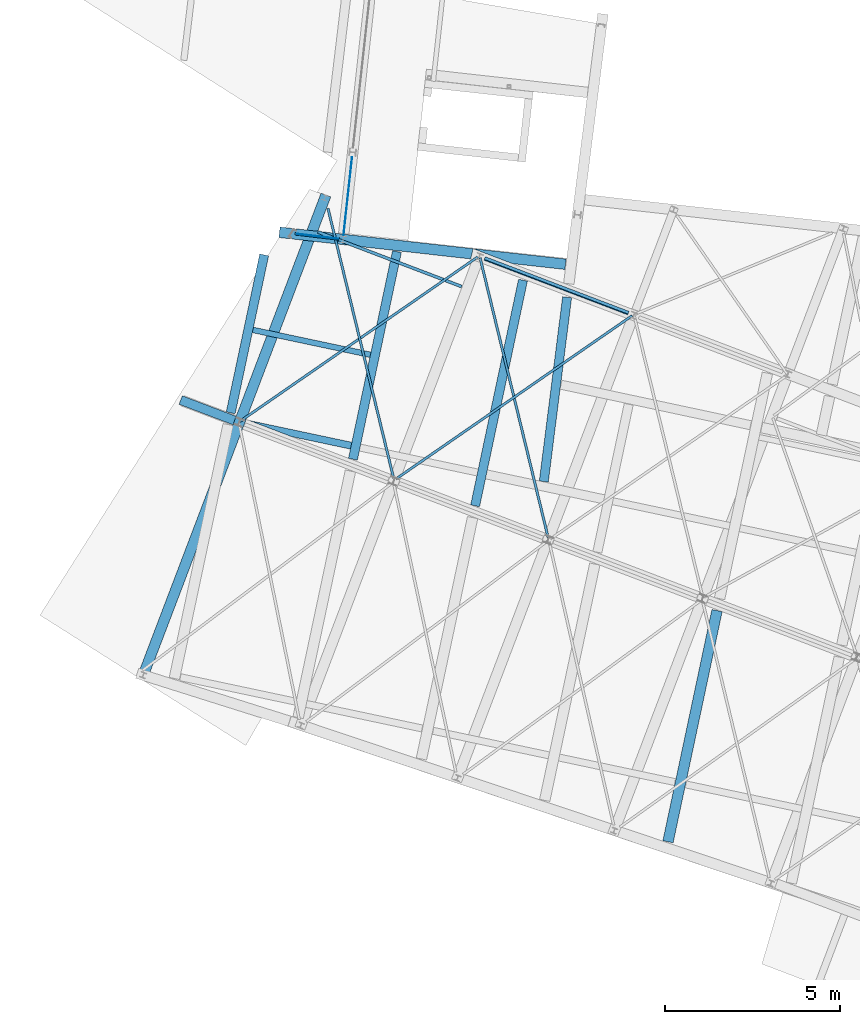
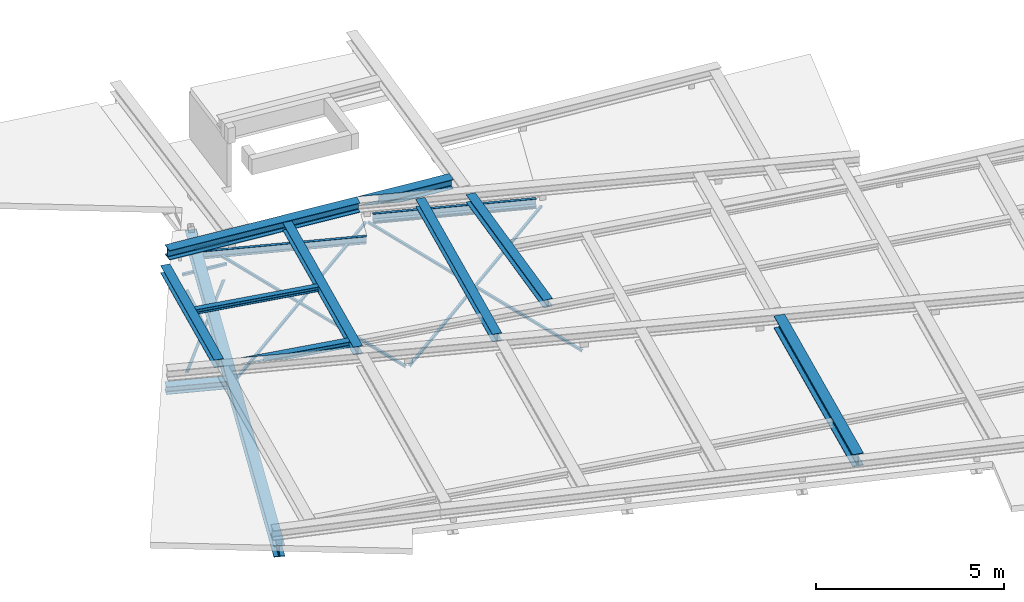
# One storey, part 11 of 21: 22 beams.
"""IFC2X3 building model written with IfcOpenShell, lengths in millimetres."""

import ifcopenshell
import ifcopenshell.guid

model = None  # the IFC model being written
_history = None  # IfcOwnerHistory: only IFC2X3 demands one
_inside = {}  # id of a spatial element -> (the spatial element, [elements in it])
_under = {}  # id of a project, library or spatial element -> (it, [spatial elements below it])
_declared = {}  # id of a project -> (the project, [libraries it declares])
_typed = {}  # id of a type object -> (the type object, [elements of that type])
_made_of = {}  # id of a material, layer set ... -> (it, [elements and type objects made of it])


def new_model(schema):
    """Start an empty IFC model of exactly this schema.

    Asked for "IFC4X3", IfcOpenShell would pick the latest addendum, in which some entities
    have other attributes; the version numbers below select the first issue.
    IFC2X3 requires an IfcOwnerHistory on every rooted entity: one is made here for all.
    """
    global model, _history
    if schema == "IFC4X3":
        model = ifcopenshell.file(schema_version=(4, 3, 0, 0))
    else:
        model = ifcopenshell.file(schema=schema)
    _inside.clear()
    _under.clear()
    _declared.clear()
    _typed.clear()
    _made_of.clear()
    _history = None
    if model.schema == "IFC2X3":
        org = make("IfcOrganization", Name="unknown")
        user = make(
            "IfcPersonAndOrganization",
            ThePerson=make("IfcPerson", FamilyName="unknown"),
            TheOrganization=org,
        )
        app = make(
            "IfcApplication",
            ApplicationDeveloper=org,
            Version="unknown",
            ApplicationFullName="unknown",
            ApplicationIdentifier="unknown",
        )
        _history = make(
            "IfcOwnerHistory",
            OwningUser=user,
            OwningApplication=app,
            ChangeAction="ADDED",
            CreationDate=0,
        )
    return model


def make(cls, **values):
    """One entity of the class cls with the attributes given. An attribute that is None is left unset."""
    return model.create_entity(
        cls, **{name: value for name, value in values.items() if value is not None}
    )


def entity(cls, *values):
    """Any entity or typed value of the class cls, its attributes in the order of the schema. None: left unset."""
    e = model.create_entity(cls)
    for i, value in enumerate(values):
        if value is not None:
            e[i] = value
    return e


def rooted(cls, **values):
    """An entity with a GlobalId (a new one), such as an element, a storey or a relation."""
    return make(cls, GlobalId=ifcopenshell.guid.new(), OwnerHistory=_history, **values)


def si_unit(unit_type, name, prefix=None):
    """IfcSIUnit, for example si_unit("LENGTHUNIT", "METRE", prefix="MILLI")."""
    return make("IfcSIUnit", UnitType=unit_type, Prefix=prefix, Name=name)


def converted_unit(unit_type, name, factor, base, dimensions=None, offset=None):
    """IfcConversionBasedUnit, such as the inch: factor (a typed value) times the base unit."""
    return make(
        "IfcConversionBasedUnit"
        if offset is None
        else "IfcConversionBasedUnitWithOffset",
        ConversionOffset=offset,
        Dimensions=None
        if dimensions is None
        else entity("IfcDimensionalExponents", *dimensions),
        UnitType=unit_type,
        Name=name,
        ConversionFactor=make(
            "IfcMeasureWithUnit", ValueComponent=factor, UnitComponent=base
        ),
    )


def derived_unit(unit_type, elements):
    """IfcDerivedUnit: a product of units, each with its exponent."""
    return make(
        "IfcDerivedUnit",
        Elements=[
            make("IfcDerivedUnitElement", Unit=unit, Exponent=power)
            for unit, power in elements
        ],
        UnitType=unit_type,
    )


def assignment(units):
    """IfcUnitAssignment: the units of a project."""
    return None if units is None else make("IfcUnitAssignment", Units=units)


def point(xyz):
    """IfcCartesianPoint."""
    return None if xyz is None else make("IfcCartesianPoint", Coordinates=xyz)


def direction(xyz):
    """IfcDirection."""
    return None if xyz is None else make("IfcDirection", DirectionRatios=xyz)


def frame(location, z_axis=None, x_axis=None):
    """IfcAxis2Placement3D, a coordinate frame: its origin and axes. An axis left out is left unset."""
    return make(
        "IfcAxis2Placement3D",
        Location=point(location),
        Axis=direction(z_axis),
        RefDirection=direction(x_axis),
    )


def frame_2d(location, x_axis=None):
    """IfcAxis2Placement2D, a coordinate frame in the plane: its origin and x axis."""
    return make(
        "IfcAxis2Placement2D", Location=point(location), RefDirection=direction(x_axis)
    )


def origin():
    """The frame at (0, 0, 0) with its axes left unset."""
    return frame((0.0, 0.0, 0.0))


def place(relative_to, where):
    """IfcLocalPlacement: puts the frame where relative to a parent placement (None: the world)."""
    return make(
        "IfcLocalPlacement", PlacementRelTo=relative_to, RelativePlacement=where
    )


def context(
    kind, dimensions, precision=None, world=None, true_north=None, identifier=None
):
    """IfcGeometricRepresentationContext, for example the 3D "Model" context."""
    return make(
        "IfcGeometricRepresentationContext",
        ContextIdentifier=identifier,
        ContextType=kind,
        CoordinateSpaceDimension=dimensions,
        Precision=precision,
        WorldCoordinateSystem=world,
        TrueNorth=true_north,
    )


def subcontext(parent, identifier, kind, view, scale=None):
    """IfcGeometricRepresentationSubContext, for example "Body" below "Model"."""
    return make(
        "IfcGeometricRepresentationSubContext",
        ContextIdentifier=identifier,
        ContextType=kind,
        ParentContext=parent,
        TargetScale=scale,
        TargetView=view,
    )


def project(units=None, contexts=None):
    """IfcProject with its units and contexts."""
    return rooted(
        "IfcProject",
        Name="project",
        RepresentationContexts=contexts,
        UnitsInContext=assignment(units),
    )


def spatial(cls, under=None, at=None, **own):
    """A site, building, storey or space (cls), placed at a placement, below another one or the project."""
    s = rooted(cls, ObjectPlacement=at, **own)
    if under is not None:
        _under.setdefault(under.id(), (under, []))[1].append(s)
    return s


def polyline(points):
    """IfcPolyline through the points."""
    return make("IfcPolyline", Points=[point(p) for p in points])


def circle_curve(where, radius):
    """IfcCircle in the frame where."""
    return make("IfcCircle", Position=where, Radius=radius)


def parameter(value):
    """IfcParameterValue: where a trimmed curve begins or ends, as a parameter of its basis curve."""
    return model.create_entity("IfcParameterValue", value)


def trimmed(basis, trim1, trim2, sense, master):
    """IfcTrimmedCurve: the piece of a basis curve between two trims."""
    return make(
        "IfcTrimmedCurve",
        BasisCurve=basis,
        Trim1=trim1,
        Trim2=trim2,
        SenseAgreement=sense,
        MasterRepresentation=master,
    )


def segment(curve, same_sense, transition):
    """IfcCompositeCurveSegment."""
    return make(
        "IfcCompositeCurveSegment",
        Transition=transition,
        SameSense=same_sense,
        ParentCurve=curve,
    )


def composite_curve(segments, self_intersect=None):
    """IfcCompositeCurve: segments joined end to end."""
    return make("IfcCompositeCurve", Segments=segments, SelfIntersect=self_intersect)


def profile(cls, at=None, kind="AREA", **sizes):
    """A parametric profile (cls). Its sizes go by their IFC names, for example OverallWidth=200.0."""
    return make(cls, ProfileType=kind, Position=at, **sizes)


def rectangle(**sizes):
    """IfcRectangleProfileDef."""
    return profile("IfcRectangleProfileDef", **sizes)


def i_section(**sizes):
    """IfcIShapeProfileDef."""
    return profile("IfcIShapeProfileDef", **sizes)


def outline(outer, holes=None, kind="AREA"):
    """IfcArbitraryClosedProfileDef: a profile drawn as a closed curve; with holes, ...WithVoids."""
    if holes is None:
        return make("IfcArbitraryClosedProfileDef", ProfileType=kind, OuterCurve=outer)
    return make(
        "IfcArbitraryProfileDefWithVoids",
        ProfileType=kind,
        OuterCurve=outer,
        InnerCurves=holes,
    )


def extrude(swept, where, along, depth):
    """IfcExtrudedAreaSolid: the profile swept, set in the frame where, extruded along a direction by depth."""
    return make(
        "IfcExtrudedAreaSolid",
        SweptArea=swept,
        Position=where,
        ExtrudedDirection=direction(along),
        Depth=depth,
    )


def clip(a, b, op="DIFFERENCE"):
    """IfcBooleanClippingResult: the solid a cut by the half space b."""
    return make(
        "IfcBooleanClippingResult", Operator=op, FirstOperand=a, SecondOperand=b
    )


def halfspace(plane, agree):
    """IfcHalfSpaceSolid: all space on one side of the plane z = 0 of the frame plane."""
    return make(
        "IfcHalfSpaceSolid",
        BaseSurface=make("IfcPlane", Position=plane),
        AgreementFlag=agree,
    )


def shape(context_of_items, identifier, shape_type, items):
    """IfcShapeRepresentation: the items that make up one representation, for example the "Body"."""
    return make(
        "IfcShapeRepresentation",
        ContextOfItems=context_of_items,
        RepresentationIdentifier=identifier,
        RepresentationType=shape_type,
        Items=items,
    )


def material(Name=None, Category=None):
    """IfcMaterial."""
    return make("IfcMaterial", Name=Name, Category=Category)


def made_of(thing, what):
    """Note that an element or type object is made of a material, layer set ...; save() writes the relation."""
    if what is not None:
        _made_of.setdefault(what.id(), (what, []))[1].append(thing)
    return thing


def type_object(cls, material=None, **own):
    """A type object (cls), such as IfcWallType, which elements share."""
    return made_of(rooted(cls, **own), material)


def element(
    cls,
    number,
    at=None,
    inside=None,
    cuts=None,
    type_object=None,
    material=None,
    context=None,
    identifier="Body",
    shape_type=None,
    held_by="IfcProductDefinitionShape",
    body=None,
    shapes=None,
    **own,
):
    """One element of the class cls, such as IfcWall. Its Tag is "e" and its number.

    at: its placement. inside: the storey or other place that contains it. cuts: it is an
    opening in that element (IfcRelVoidsElement). A single representation is given by context,
    identifier, shape_type and body (its items); several are given by shapes. held_by: the class
    of the entity that holds the representations. save() writes the other relations.
    """
    e = rooted(cls, Tag="e%d" % number, ObjectPlacement=at, **own)
    if body is not None:
        shapes = [shape(context, identifier, shape_type, body)]
    if shapes is not None:
        e.Representation = make(held_by, Representations=shapes)
    if inside is not None:
        _inside.setdefault(inside.id(), (inside, []))[1].append(e)
    if cuts is not None:
        rooted(
            "IfcRelVoidsElement", RelatingBuildingElement=cuts, RelatedOpeningElement=e
        )
    if type_object is not None:
        _typed.setdefault(type_object.id(), (type_object, []))[1].append(e)
    return made_of(e, material)


def aggregate(whole, parts):
    """IfcRelAggregates: a whole, such as a stair, and the parts it consists of."""
    return rooted("IfcRelAggregates", RelatingObject=whole, RelatedObjects=parts)


def save(model, path):
    """Write the relations noted so far, then the file.

    IfcRelAggregates (storeys below a building ...), IfcRelContainedInSpatialStructure (elements
    in a storey), IfcRelDefinesByType, IfcRelAssociatesMaterial and IfcRelDeclares: one each for
    every whole, place, type object, material and project.
    """
    for whole, parts in _under.values():
        aggregate(whole, parts)
    for where, things in _inside.values():
        rooted(
            "IfcRelContainedInSpatialStructure",
            RelatedElements=things,
            RelatingStructure=where,
        )
    for kind, things in _typed.values():
        rooted("IfcRelDefinesByType", RelatedObjects=things, RelatingType=kind)
    for what, things in _made_of.values():
        rooted("IfcRelAssociatesMaterial", RelatedObjects=things, RelatingMaterial=what)
    for by, libraries in _declared.values():
        rooted("IfcRelDeclares", RelatingContext=by, RelatedDefinitions=libraries)
    model.write(path)


model = new_model("IFC2X3")

# Units and contexts
model_context = context("Model", 3, precision=0.01, world=origin(), true_north=direction((6.123233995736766e-17, 1.0)))
body_context = subcontext(model_context, "Body", "Model", "MODEL_VIEW")
ifc_project = project(units=[si_unit("LENGTHUNIT", "METRE", prefix="MILLI"), converted_unit("PLANEANGLEUNIT", "DEGREE", entity("IfcPlaneAngleMeasure", 0.017453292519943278), si_unit("PLANEANGLEUNIT", "RADIAN"), dimensions=[0, 0, 0, 0, 0, 0, 0]), si_unit("AREAUNIT", "SQUARE_METRE"), derived_unit("THERMALTRANSMITTANCEUNIT", [(si_unit("MASSUNIT", "GRAM", prefix="KILO"), 1), (si_unit("THERMODYNAMICTEMPERATUREUNIT", "KELVIN"), -1), (si_unit("TIMEUNIT", "SECOND"), -3)])], contexts=[model_context])

# Site, building, storey
site_placement = place(None, frame((-72937.88054949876, 11621.45624098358, 0.0), z_axis=(0.0, 0.0, 1.0), x_axis=(0.9346418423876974, -0.35559053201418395, 0.0)))
site = spatial("IfcSite", under=ifc_project, at=site_placement, Name="Default", CompositionType="ELEMENT")
building_placement = place(site_placement, origin())
building = spatial("IfcBuilding", under=site, at=building_placement, CompositionType="ELEMENT")
storey_placement = place(building_placement, frame((0.0, 0.0, 4250.0)))
storey = spatial("IfcBuildingStorey", under=building, at=storey_placement, Name="01 eerste verdieping", CompositionType="ELEMENT", Elevation=4250.0)

# Beams
ifc_material_1 = material(Name="metaal_staal_generiek")
beam_type_1 = type_object("IfcBeamType", Name="DIE38", PredefinedType="BEAM")
beam_1_placement = place(storey_placement, frame((15000.0, 14112.265775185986, -80.0), z_axis=(0.0, 0.0, 1.0), x_axis=(0.0, 1.0, 0.0)))
element("IfcBeam", 1, at=beam_1_placement, inside=storey, type_object=beam_type_1, material=ifc_material_1, Name="28.11_Stalen balk HEA", ObjectType="stalen balk HEA profiel", context=body_context, shape_type="SweptSolid", body=[
    extrude(i_section(OverallWidth=300.0000000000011, OverallDepth=369.9999999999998, WebThickness=10.999999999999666, FlangeThickness=19.000000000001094, FilletRadius=27.000000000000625, at=frame_2d((2.7000623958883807e-13, 1.0800249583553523e-12), x_axis=(0.0, 1.0))), frame((-84.08288759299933, 0.0, -185.0), z_axis=(1.0, 0.0, 0.0), x_axis=(0.0, 0.0, -1.0)), (0.0, 0.0, 1.0), 14817.300000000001),
])
beam_type_2 = type_object("IfcBeamType", Name="DIE10", PredefinedType="BEAM")
beam_2_placement = place(storey_placement, frame((24460.0, 28760.0, -80.0), z_axis=(0.0, 0.0, 1.0), x_axis=(-1.0, 0.0, 0.0)))
element("IfcBeam", 2, at=beam_2_placement, inside=storey, type_object=beam_type_2, material=ifc_material_1, Name="28.11_Stalen balk HEA", ObjectType="stalen balk HEA profiel", context=body_context, shape_type="SweptSolid", body=[
    extrude(i_section(OverallWidth=99.99999999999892, OverallDepth=95.99999999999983, WebThickness=4.999999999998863, FlangeThickness=8.000000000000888, FilletRadius=12.000000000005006, at=frame_2d((1.623590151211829e-12, 2.1671553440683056e-12), x_axis=(0.0, 1.0))), frame((162.69999999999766, 0.0, -218.0), z_axis=(1.0, 0.0, 0.0), x_axis=(0.0, 0.0, -1.0)), (0.0, 0.0, 1.0), 4404.600000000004),
])
beam_type_3 = type_object("IfcBeamType", Name="DIE26", PredefinedType="BEAM")
beam_3_placement = place(storey_placement, frame((15000.0, 21880.0, -80.0), z_axis=(0.0, 0.0, 1.0), x_axis=(-1.0, 0.0, 0.0)))
element("IfcBeam", 3, at=beam_3_placement, inside=storey, type_object=beam_type_3, material=ifc_material_1, Name="28.11_Stalen balk HEA", ObjectType="stalen balk HEA profiel", context=body_context, shape_type="SweptSolid", body=[
    extrude(i_section(OverallWidth=260.00000000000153, OverallDepth=250.00000000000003, WebThickness=7.500000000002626, FlangeThickness=12.500000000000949, FilletRadius=23.999999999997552, at=frame_2d((2.7000623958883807e-13, 2.1600499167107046e-12), x_axis=(0.0, 1.0))), frame((150.01622197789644, 0.0, -125.0), z_axis=(1.0, 0.0, 0.0), x_axis=(0.0, 0.0, -1.0)), (0.0, 0.0, 1.0), 1649.1999999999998),
])
beam_type_4 = type_object("IfcBeamType", Name="L70x7", PredefinedType="BEAM")
beam_4_placement = place(storey_placement, frame((24460.0, 28760.0, -270.0), z_axis=(0.0, 0.0, 1.0), x_axis=(-0.5665288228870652, -0.8240419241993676, 0.0)))
element("IfcBeam", 4, at=beam_4_placement, inside=storey, type_object=beam_type_4, material=ifc_material_1, Name="28.11_SF_WVB-L-Gelijkzijdig:L70x7", ObjectType="28.11_SF_WVB-L-Gelijkzijdig:L70x7", context=body_context, shape_type="SweptSolid", body=[
    extrude(outline(composite_curve([segment(polyline([(-26.444444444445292, -43.555555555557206), (-23.944444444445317, -43.555555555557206)]), True, "CONTINUOUS"), segment(trimmed(circle_curve(frame_2d((-23.94444444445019, -39.0555555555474), x_axis=(0.0, -1.0)), 4.500000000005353), [parameter(0.0)], [parameter(89.99999999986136)], True, "PARAMETER"), True, "CONTINUOUS"), segment(polyline([(-19.444444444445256, -39.0555555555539), (-19.444444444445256, 10.444444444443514)]), True, "CONTINUOUS"), segment(trimmed(circle_curve(frame_2d((-10.44444444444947, 10.444444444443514), x_axis=(-1.0, 0.0)), 8.999999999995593), [parameter(269.9999999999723)], [parameter(0.0)], True, "PARAMETER"), False, "CONTINUOUS"), segment(polyline([(-10.444444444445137, 19.444444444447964), (39.05555555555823, 19.444444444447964)]), True, "CONTINUOUS"), segment(trimmed(circle_curve(frame_2d((39.055555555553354, 23.944444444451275), x_axis=(0.0, -1.0)), 4.500000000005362), [parameter(0.0)], [parameter(89.99999999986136)], True, "PARAMETER"), True, "CONTINUOUS"), segment(polyline([(43.55555555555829, 23.944444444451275), (43.55555555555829, 26.44444444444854)]), True, "CONTINUOUS"), segment(polyline([(43.55555555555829, 26.44444444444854), (-26.444444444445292, 26.44444444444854)]), True, "CONTINUOUS"), segment(polyline([(-26.444444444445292, 26.44444444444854), (-26.444444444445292, -43.555555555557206)]), True, "CONTINUOUS")], self_intersect=False)), frame((41.394885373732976, -6.744444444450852, -6.7444444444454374), z_axis=(1.0, 0.0, 0.0), x_axis=(0.0, 0.0, -1.0)), (0.0, 0.0, 1.0), 8221.800000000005),
])
beam_5_placement = place(storey_placement, frame((24460.0, 21880.0, -270.0), z_axis=(0.0, 0.0, 1.0), x_axis=(-0.5665288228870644, 0.8240419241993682, 0.0)))
element("IfcBeam", 5, at=beam_5_placement, inside=storey, type_object=beam_type_4, material=ifc_material_1, Name="28.11_SF_WVB-L-Gelijkzijdig:L70x7", ObjectType="28.11_SF_WVB-L-Gelijkzijdig:L70x7", context=body_context, shape_type="SweptSolid", body=[
    extrude(outline(composite_curve([segment(polyline([(-26.444444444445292, -43.55555555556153), (-23.944444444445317, -43.55555555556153)]), True, "CONTINUOUS"), segment(trimmed(circle_curve(frame_2d((-23.94444444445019, -39.05555555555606), x_axis=(0.0, -1.0)), 4.50000000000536), [parameter(0.0)], [parameter(89.99999999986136)], True, "PARAMETER"), True, "CONTINUOUS"), segment(polyline([(-19.444444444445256, -39.055555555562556), (-19.444444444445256, 10.444444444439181)]), True, "CONTINUOUS"), segment(trimmed(circle_curve(frame_2d((-10.44444444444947, 10.444444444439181), x_axis=(-1.0, 0.0)), 8.999999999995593), [parameter(269.9999999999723)], [parameter(0.0)], True, "PARAMETER"), False, "CONTINUOUS"), segment(polyline([(-10.444444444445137, 19.44444444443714), (39.05555555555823, 19.44444444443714)]), True, "CONTINUOUS"), segment(trimmed(circle_curve(frame_2d((39.055555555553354, 23.94444444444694), x_axis=(0.0, -1.0)), 4.500000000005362), [parameter(0.0)], [parameter(89.99999999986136)], True, "PARAMETER"), True, "CONTINUOUS"), segment(polyline([(43.55555555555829, 23.944444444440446), (43.55555555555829, 26.444444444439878)]), True, "CONTINUOUS"), segment(polyline([(43.55555555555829, 26.444444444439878), (-26.444444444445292, 26.444444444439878)]), True, "CONTINUOUS"), segment(polyline([(-26.444444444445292, 26.444444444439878), (-26.444444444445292, -43.55555555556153)]), True, "CONTINUOUS")], self_intersect=False)), frame((53.09488537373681, -6.744444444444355, -6.7444444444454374), z_axis=(1.0, 0.0, 0.0), x_axis=(0.0, 0.0, -1.0)), (0.0, 0.0, 1.0), 8254.600000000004),
])
beam_6_placement = place(storey_placement, frame((19730.0, 28760.0, -270.0), z_axis=(0.0, 0.0, 1.0), x_axis=(-0.5665288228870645, -0.8240419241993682, 0.0)))
element("IfcBeam", 6, at=beam_6_placement, inside=storey, type_object=beam_type_4, material=ifc_material_1, Name="28.11_SF_WVB-L-Gelijkzijdig:L70x7", ObjectType="28.11_SF_WVB-L-Gelijkzijdig:L70x7", context=body_context, shape_type="SweptSolid", body=[
    extrude(outline(composite_curve([segment(polyline([(-26.444444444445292, -43.55555555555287), (-23.944444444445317, -43.55555555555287)]), True, "CONTINUOUS"), segment(trimmed(circle_curve(frame_2d((-23.94444444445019, -39.05555555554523), x_axis=(0.0, -1.0)), 4.500000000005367), [parameter(0.0)], [parameter(89.99999999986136)], True, "PARAMETER"), True, "CONTINUOUS"), segment(polyline([(-19.444444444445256, -39.05555555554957), (-19.444444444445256, 10.44444444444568)]), True, "CONTINUOUS"), segment(trimmed(circle_curve(frame_2d((-10.44444444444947, 10.44444444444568), x_axis=(-1.0, 0.0)), 8.999999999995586), [parameter(269.9999999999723)], [parameter(0.0)], True, "PARAMETER"), False, "CONTINUOUS"), segment(polyline([(-10.444444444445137, 19.444444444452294), (39.05555555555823, 19.4444444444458)]), True, "CONTINUOUS"), segment(trimmed(circle_curve(frame_2d((39.055555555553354, 23.94444444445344), x_axis=(0.0, -1.0)), 4.5000000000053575), [parameter(0.0)], [parameter(89.99999999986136)], True, "PARAMETER"), True, "CONTINUOUS"), segment(polyline([(43.55555555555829, 23.94444444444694), (43.55555555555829, 26.444444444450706)]), True, "CONTINUOUS"), segment(polyline([(43.55555555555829, 26.444444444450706), (-26.444444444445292, 26.444444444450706)]), True, "CONTINUOUS"), segment(polyline([(-26.444444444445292, 26.444444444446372), (-26.444444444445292, -43.55555555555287)]), True, "CONTINUOUS")], self_intersect=False)), frame((41.3948853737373, -6.744444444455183, -6.7444444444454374), z_axis=(1.0, 0.0, 0.0), x_axis=(0.0, 0.0, -1.0)), (0.0, 0.0, 1.0), 8276.800000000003),
])
beam_7_placement = place(storey_placement, frame((19730.0, 21880.0, -270.0), z_axis=(0.0, 0.0, 1.0), x_axis=(-0.5665288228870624, 0.8240419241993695, 0.0)))
element("IfcBeam", 7, at=beam_7_placement, inside=storey, type_object=beam_type_4, material=ifc_material_1, Name="28.11_SF_WVB-L-Gelijkzijdig:L70x7", ObjectType="28.11_SF_WVB-L-Gelijkzijdig:L70x7", context=body_context, shape_type="SweptSolid", body=[
    extrude(outline(composite_curve([segment(polyline([(-26.444444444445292, -43.555555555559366), (-23.944444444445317, -43.555555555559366)]), True, "CONTINUOUS"), segment(trimmed(circle_curve(frame_2d((-23.94444444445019, -39.05555555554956), x_axis=(0.0, -1.0)), 4.500000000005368), [parameter(0.0)], [parameter(89.99999999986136)], True, "PARAMETER"), True, "CONTINUOUS"), segment(polyline([(-19.444444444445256, -39.05555555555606), (-19.444444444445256, 10.444444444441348)]), True, "CONTINUOUS"), segment(trimmed(circle_curve(frame_2d((-10.44444444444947, 10.444444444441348), x_axis=(-1.0, 0.0)), 8.999999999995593), [parameter(269.9999999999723)], [parameter(0.0)], True, "PARAMETER"), False, "CONTINUOUS"), segment(polyline([(-10.444444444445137, 19.4444444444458), (39.05555555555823, 19.4444444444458)]), True, "CONTINUOUS"), segment(trimmed(circle_curve(frame_2d((39.055555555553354, 23.94444444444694), x_axis=(0.0, -1.0)), 4.500000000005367), [parameter(0.0)], [parameter(89.99999999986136)], True, "PARAMETER"), True, "CONTINUOUS"), segment(polyline([(43.55555555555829, 23.94444444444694), (43.55555555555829, 26.44444444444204)]), True, "CONTINUOUS"), segment(polyline([(43.55555555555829, 26.44444444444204), (-26.444444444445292, 26.44444444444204)]), True, "CONTINUOUS"), segment(polyline([(-26.444444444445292, 26.44444444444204), (-26.444444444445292, -43.555555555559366)]), True, "CONTINUOUS")], self_intersect=False)), frame((85.94488537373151, -6.744444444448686, -6.7444444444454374), z_axis=(1.0, 0.0, 0.0), x_axis=(0.0, 0.0, -1.0)), (0.0, 0.0, 1.0), 7950.452242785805),
])
beam_type_5 = type_object("IfcBeamType", Name="UNP240", PredefinedType="NOTDEFINED")
beam_8_placement = place(storey_placement, frame((24294.99940872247, 28798.4, -47.00097554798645), z_axis=(-5.912390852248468e-06, 0.0, 1.0), x_axis=(-1.0, 0.0, -5.912390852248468e-06)))
element("IfcBeam", 8, at=beam_8_placement, inside=storey, type_object=beam_type_5, material=ifc_material_1, Name="28.11_SF_BalkUNP:UNP240", ObjectType="28.11_SF_BalkUNP:UNP240", context=body_context, shape_type="SweptSolid", body=[
    extrude(outline(composite_curve([segment(polyline([(-120.0, -46.66368324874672), (120.0, -46.66368324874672)]), True, "CONTINUOUS"), segment(polyline([(120.0, -46.66368324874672), (120.0, 38.336316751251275)]), True, "CONTINUOUS"), segment(polyline([(120.0, 38.336316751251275), (116.39825158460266, 38.336316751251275)]), True, "CONTINUOUS"), segment(trimmed(circle_curve(frame_2d((116.39825158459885, 31.836316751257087), x_axis=(0.0, 1.0)), 6.499999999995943), [parameter(0.0)], [parameter(85.43000000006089)], True, "PARAMETER"), True, "CONTINUOUS"), segment(polyline([(109.91891681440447, 32.3542172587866), (105.31858479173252, -25.19948426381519)]), True, "CONTINUOUS"), segment(trimmed(circle_curve(frame_2d((92.35991525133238, -24.163683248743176), x_axis=(0.9968207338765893, -0.07967700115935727)), 13.000000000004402), [parameter(274.57000000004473)], [parameter(0.0)], True, "PARAMETER"), False, "CONTINUOUS"), segment(polyline([(92.35991525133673, -37.163683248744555), (-92.35991525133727, -37.163683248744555)]), True, "CONTINUOUS"), segment(trimmed(circle_curve(frame_2d((-92.35991525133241, -24.163683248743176), x_axis=(0.0, -1.0)), 13.000000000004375), [parameter(274.57000000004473)], [parameter(0.0)], True, "PARAMETER"), False, "CONTINUOUS"), segment(polyline([(-105.31858479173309, -25.19948426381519), (-109.91891681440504, 32.3542172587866)]), True, "CONTINUOUS"), segment(trimmed(circle_curve(frame_2d((-116.39825158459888, 31.836316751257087), x_axis=(0.9968207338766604, 0.07967700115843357)), 6.4999999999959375), [parameter(0.0)], [parameter(85.43000000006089)], True, "PARAMETER"), True, "CONTINUOUS"), segment(polyline([(-116.39825158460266, 38.336316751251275), (-120.0, 38.336316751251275)]), True, "CONTINUOUS"), segment(polyline([(-120.0, 38.336316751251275), (-120.0, -46.66368324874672)]), True, "CONTINUOUS")], self_intersect=False)), frame((0.0, 24.363683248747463, -119.99999999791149), z_axis=(1.0, 0.0, 0.0), x_axis=(0.0, 0.0, -1.0)), (0.0, 0.0, 1.0), 4400.000000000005),
])
beam_9_placement = place(storey_placement, frame((19564.99940872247, 27798.400000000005, -47.00097554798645), z_axis=(-5.912390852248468e-06, 0.0, 1.0), x_axis=(-1.0, 0.0, -5.912390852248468e-06)))
element("IfcBeam", 9, at=beam_9_placement, inside=storey, type_object=beam_type_5, material=ifc_material_1, Name="28.11_SF_BalkUNP:UNP240", ObjectType="28.11_SF_BalkUNP:UNP240", context=body_context, shape_type="SweptSolid", body=[
    extrude(outline(composite_curve([segment(polyline([(-120.0, -46.66368324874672), (120.0, -46.66368324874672)]), True, "CONTINUOUS"), segment(polyline([(120.0, -46.66368324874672), (120.0, 38.336316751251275)]), True, "CONTINUOUS"), segment(polyline([(120.0, 38.336316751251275), (116.39825158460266, 38.336316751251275)]), True, "CONTINUOUS"), segment(trimmed(circle_curve(frame_2d((116.39825158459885, 31.836316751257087), x_axis=(0.0, 1.0)), 6.499999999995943), [parameter(0.0)], [parameter(85.43000000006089)], True, "PARAMETER"), True, "CONTINUOUS"), segment(polyline([(109.91891681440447, 32.3542172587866), (105.31858479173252, -25.19948426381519)]), True, "CONTINUOUS"), segment(trimmed(circle_curve(frame_2d((92.35991525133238, -24.163683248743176), x_axis=(0.9968207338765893, -0.07967700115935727)), 13.000000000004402), [parameter(274.57000000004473)], [parameter(0.0)], True, "PARAMETER"), False, "CONTINUOUS"), segment(polyline([(92.35991525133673, -37.163683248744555), (-92.35991525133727, -37.163683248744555)]), True, "CONTINUOUS"), segment(trimmed(circle_curve(frame_2d((-92.35991525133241, -24.163683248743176), x_axis=(0.0, -1.0)), 13.000000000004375), [parameter(274.57000000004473)], [parameter(0.0)], True, "PARAMETER"), False, "CONTINUOUS"), segment(polyline([(-105.31858479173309, -25.19948426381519), (-109.91891681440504, 32.3542172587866)]), True, "CONTINUOUS"), segment(trimmed(circle_curve(frame_2d((-116.39825158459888, 31.836316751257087), x_axis=(0.9968207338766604, 0.07967700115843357)), 6.4999999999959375), [parameter(0.0)], [parameter(85.43000000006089)], True, "PARAMETER"), True, "CONTINUOUS"), segment(polyline([(-116.39825158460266, 38.336316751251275), (-120.0, 38.336316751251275)]), True, "CONTINUOUS"), segment(polyline([(-120.0, 38.336316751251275), (-120.0, -46.66368324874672)]), True, "CONTINUOUS")], self_intersect=False)), frame((0.0, 24.363683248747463, -119.99999999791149), z_axis=(1.0, 0.0, 0.0), x_axis=(0.0, 0.0, -1.0)), (0.0, 0.0, 1.0), 4400.000000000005),
])
ifc_material_2 = material(Name="metaal_staal_profiel_s235")
beam_type_6 = type_object("IfcBeamType", Name="HEA320", PredefinedType="BEAM")
beam_10_placement = place(storey_placement, frame((22276.66040821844, 29474.20363867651, 450.0), z_axis=(0.0, 0.0, 1.0), x_axis=(-0.9683640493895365, -0.24954171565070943, 0.0)))
element("IfcBeam", 10, at=beam_10_placement, inside=storey, type_object=beam_type_6, material=ifc_material_2, Name="28.11_Stalen balk HEA", ObjectType="stalen balk HEA profiel", context=body_context, shape_type="SweptSolid", body=[
    clip(extrude(outline(composite_curve([segment(polyline([(139.49999999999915, -150.0), (155.0, -150.0)]), True, "CONTINUOUS"), segment(polyline([(155.0, -150.0), (155.0, 150.0)]), True, "CONTINUOUS"), segment(polyline([(155.0, 150.0), (139.49999999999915, 150.0)]), True, "CONTINUOUS"), segment(polyline([(139.49999999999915, 150.0), (139.49999999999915, 31.499999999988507)]), True, "CONTINUOUS"), segment(trimmed(circle_curve(frame_2d((112.50000000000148, 31.499999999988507), x_axis=(1.0, 0.0)), 26.99999999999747), [parameter(269.9999999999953)], [parameter(0.0)], True, "PARAMETER"), False, "CONTINUOUS"), segment(polyline([(112.49999999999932, 4.499999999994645), (-112.5000000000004, 4.4999999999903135)]), True, "CONTINUOUS"), segment(trimmed(circle_curve(frame_2d((-112.50000000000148, 31.499999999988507), x_axis=(0.0, -1.0)), 26.999999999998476), [parameter(269.9999999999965)], [parameter(0.0)], True, "PARAMETER"), False, "CONTINUOUS"), segment(polyline([(-139.50000000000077, 31.499999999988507), (-139.50000000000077, 150.0)]), True, "CONTINUOUS"), segment(polyline([(-139.50000000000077, 150.0), (-155.0, 150.0)]), True, "CONTINUOUS"), segment(polyline([(-155.0, 150.0), (-155.0, -150.0)]), True, "CONTINUOUS"), segment(polyline([(-155.0, -150.0), (-139.50000000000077, -150.0)]), True, "CONTINUOUS"), segment(polyline([(-139.50000000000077, -150.0), (-139.50000000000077, -31.500000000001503)]), True, "CONTINUOUS"), segment(trimmed(circle_curve(frame_2d((-112.50000000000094, -31.500000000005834), x_axis=(-1.0, 0.0)), 26.999999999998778), [parameter(269.99999999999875)], [parameter(0.0)], True, "PARAMETER"), False, "CONTINUOUS"), segment(polyline([(-112.50000000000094, -4.5000000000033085), (112.49999999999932, -4.50000000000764)]), True, "CONTINUOUS"), segment(trimmed(circle_curve(frame_2d((112.49999999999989, -31.500000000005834), x_axis=(0.0, 1.0)), 26.999999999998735), [parameter(269.99999999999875)], [parameter(0.0)], True, "PARAMETER"), False, "CONTINUOUS"), segment(polyline([(139.49999999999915, -31.500000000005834), (139.49999999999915, -150.0)]), True, "CONTINUOUS")], self_intersect=False)), frame((164.93055297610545, 0.0, -155.0), z_axis=(1.0, 0.0, 0.0), x_axis=(0.0, 0.0, -1.0)), (0.0, 0.0, 1.0), 2658.2000000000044), halfspace(frame((2843.044675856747, -150.0, 270.0), z_axis=(0.24954171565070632, 0.9683640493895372, 0.0), x_axis=(0.9683640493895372, -0.24954171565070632, 0.0)), False)),
])
beam_11_placement = place(storey_placement, frame((19505.143326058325, 28760.0, 450.0), z_axis=(0.0, 0.0, 1.0), x_axis=(-0.9683640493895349, -0.24954171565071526, 0.0)))
element("IfcBeam", 11, at=beam_11_placement, inside=storey, type_object=beam_type_6, material=ifc_material_2, Name="28.11_Stalen balk HEA", ObjectType="stalen balk HEA profiel", context=body_context, shape_type="SweptSolid", body=[
    clip(extrude(i_section(OverallWidth=300.0000000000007, OverallDepth=309.9999999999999, WebThickness=9.00000000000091, FlangeThickness=15.500000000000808, FilletRadius=26.99999999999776, at=frame_2d((5.542233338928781e-13, -6.835421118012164e-12), x_axis=(0.0, 1.0))), frame((-19.01643009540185, 0.0, -155.0), z_axis=(1.0, 0.0, 0.0), x_axis=(0.0, 0.0, -1.0)), (0.0, 0.0, 1.0), 5563.297089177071), halfspace(frame((19.01643009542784, 150.0, 270.0), z_axis=(-0.9920594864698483, 0.12576953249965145, 0.0), x_axis=(0.12576953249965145, 0.9920594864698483, 0.0)), False)),
])
beam_type_7 = type_object("IfcBeamType", Name="HEB400", PredefinedType="BEAM")
beam_12_placement = place(storey_placement, frame((29673.38027974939, 21880.0, 450.0), z_axis=(0.0, 0.0, 1.0), x_axis=(0.15393076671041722, -0.9880816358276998, 0.0)))
element("IfcBeam", 12, at=beam_12_placement, inside=storey, type_object=beam_type_7, material=ifc_material_2, Name="28.11_Stalen balk HEB", ObjectType="28.11_SF_BalkHEB:HEB400", context=body_context, shape_type="SweptSolid", body=[
    extrude(i_section(OverallWidth=299.99999999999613, OverallDepth=400.0, WebThickness=13.500000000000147, FlangeThickness=24.00000000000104, FilletRadius=26.999999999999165, at=frame_2d((1.3642420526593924e-12, -6.423306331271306e-12), x_axis=(0.0, 1.0))), frame((175.20676364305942, 0.0, -200.0), z_axis=(1.0, 0.0, 0.0), x_axis=(0.0, 0.0, -1.0)), (0.0, 0.0, 1.0), 6768.000000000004),
])
beam_type_8 = type_object("IfcBeamType", Name="HEA260", PredefinedType="BEAM")
beam_13_placement = place(storey_placement, frame((22448.660440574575, 28764.500000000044, 450.0), z_axis=(0.0, 0.0, 1.0), x_axis=(0.23553621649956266, -0.9718655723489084, 0.0)))
element("IfcBeam", 13, at=beam_13_placement, inside=storey, type_object=beam_type_8, material=ifc_material_2, Name="28.11_Stalen balk HEA", ObjectType="stalen balk HEA profiel", context=body_context, shape_type="SweptSolid", body=[
    extrude(i_section(OverallWidth=259.9999999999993, OverallDepth=250.00000000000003, WebThickness=7.500000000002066, FlangeThickness=12.500000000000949, FilletRadius=23.999999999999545, at=frame_2d((2.7000623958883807e-13, 2.1174173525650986e-12), x_axis=(0.0, 1.0))), frame((203.20158189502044, 0.0, -125.0), z_axis=(1.0, 0.0, 0.0), x_axis=(0.0, 0.0, -1.0)), (0.0, 0.0, 1.0), 5319.900000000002),
])
beam_14_placement = place(storey_placement, frame((21112.93211738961, 28755.958889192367, 450.0), z_axis=(0.0, 0.0, 1.0), x_axis=(0.15393076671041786, -0.9880816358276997, 0.0)))
element("IfcBeam", 14, at=beam_14_placement, inside=storey, type_object=beam_type_8, material=ifc_material_2, Name="28.11_Stalen balk HEA", ObjectType="stalen balk HEA profiel", context=body_context, shape_type="SweptSolid", body=[
    extrude(i_section(OverallWidth=260.00000000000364, OverallDepth=250.0, WebThickness=7.499999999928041, FlangeThickness=12.500000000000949, FilletRadius=24.000000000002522, at=frame_2d((2.7000623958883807e-13, 0.0), x_axis=(0.0, 1.0))), frame((184.57129027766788, 0.0, -125.0), z_axis=(1.0, 0.0, 0.0), x_axis=(0.0, 0.0, -1.0)), (0.0, 0.0, 1.0), 6604.900000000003),
])
beam_15_placement = place(storey_placement, frame((17450.170650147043, 28230.445637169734, 450.0), z_axis=(0.0, 0.0, 1.0), x_axis=(0.15393076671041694, -0.9880816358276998, 0.0)))
element("IfcBeam", 15, at=beam_15_placement, inside=storey, type_object=beam_type_8, material=ifc_material_2, Name="28.11_Stalen balk HEA", ObjectType="stalen balk HEA profiel", context=body_context, shape_type="SweptSolid", body=[
    extrude(i_section(OverallWidth=260.00000000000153, OverallDepth=250.00000000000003, WebThickness=7.500000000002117, FlangeThickness=12.500000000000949, FilletRadius=24.000000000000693, at=frame_2d((2.7000623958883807e-13, -3.538502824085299e-12), x_axis=(0.0, 1.0))), frame((176.1727530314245, 0.0, -125.0), z_axis=(1.0, 0.0, 0.0), x_axis=(0.0, 0.0, -1.0)), (0.0, 0.0, 1.0), 6078.800000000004),
])
beam_16_placement = place(storey_placement, frame((14019.849955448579, 26212.894999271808, 450.0), z_axis=(0.0, 0.0, 1.0), x_axis=(0.153930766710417, -0.9880816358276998, 0.0)))
element("IfcBeam", 16, at=beam_16_placement, inside=storey, type_object=beam_type_8, material=ifc_material_2, Name="28.11_Stalen balk HEA", ObjectType="stalen balk HEA profiel", context=body_context, shape_type="SweptSolid", body=[
    extrude(i_section(OverallWidth=260.00000000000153, OverallDepth=250.00000000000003, WebThickness=7.500000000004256, FlangeThickness=12.500000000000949, FilletRadius=24.000000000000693, at=frame_2d((2.7000623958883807e-13, 0.0), x_axis=(0.0, 1.0))), frame((-406.3894701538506, 0.0, -125.0), z_axis=(1.0, 0.0, 0.0), x_axis=(0.0, 0.0, -1.0)), (0.0, 0.0, 1.0), 4622.426419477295),
])
beam_type_9 = type_object("IfcBeamType", Name="HEA200", PredefinedType="BEAM")
beam_17_placement = place(storey_placement, frame((14928.147060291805, 21880.0, 450.0), z_axis=(0.0, 0.0, 1.0), x_axis=(0.988081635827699, 0.15393076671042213, 0.0)))
element("IfcBeam", 17, at=beam_17_placement, inside=storey, type_object=beam_type_9, material=ifc_material_2, Name="28.11_Stalen balk HEA", ObjectType="stalen balk HEA profiel", context=body_context, shape_type="SweptSolid", body=[
    clip(extrude(i_section(OverallWidth=199.99999999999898, OverallDepth=190.0000000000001, WebThickness=6.500000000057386, FlangeThickness=10.000000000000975, FilletRadius=18.000000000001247, at=frame_2d((5.471179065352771e-13, 0.0), x_axis=(0.0, 1.0))), frame((332.56403194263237, 0.0, -95.0), z_axis=(1.0, 0.0, 0.0), x_axis=(0.0, 0.0, -1.0)), (0.0, 0.0, 1.0), 3006.8830481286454), halfspace(frame((2534.6478257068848, -243.057126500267, 300.0), z_axis=(-0.1539307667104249, -0.9880816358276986, 0.0), x_axis=(0.9880816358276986, -0.1539307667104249, 0.0)), False)),
])
beam_type_10 = type_object("IfcBeamType", Name="HEA160", PredefinedType="BEAM")
beam_18_placement = place(storey_placement, frame((14290.932633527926, 24472.815210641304, 450.0), z_axis=(0.0, 0.0, 1.0), x_axis=(0.988081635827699, 0.15393076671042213, 0.0)))
element("IfcBeam", 18, at=beam_18_placement, inside=storey, type_object=beam_type_10, material=ifc_material_2, Name="28.11_Stalen balk HEA", ObjectType="stalen balk HEA profiel", context=body_context, shape_type="SweptSolid", body=[
    extrude(i_section(OverallWidth=159.9999999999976, OverallDepth=152.00000000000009, WebThickness=6.000000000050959, FlangeThickness=9.00000000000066, FilletRadius=14.999999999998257, at=frame_2d((5.400124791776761e-13, 2.1387336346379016e-12), x_axis=(0.0, 1.0))), frame((130.0, 0.0, -76.0), z_axis=(1.0, 0.0, 0.0), x_axis=(0.0, 0.0, -1.0)), (0.0, 0.0, 1.0), 3440.0000000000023),
])
beam_type_11 = type_object("IfcBeamType", Name="K80x4", PredefinedType="NOTDEFINED")
beam_19_placement = place(storey_placement, frame((14555.739533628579, 27456.22665113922, -591.5952722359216), z_axis=(0.0, 0.0, 1.0), x_axis=(-0.9699360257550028, -0.24336003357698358, 0.0)))
element("IfcBeam", 19, at=beam_19_placement, inside=storey, type_object=beam_type_11, material=ifc_material_1, Name="28.11_SF_BalkKokerGelijkzijdig:K80x4", ObjectType="28.11_SF_BalkKokerGelijkzijdig:K80x4", context=body_context, shape_type="SweptSolid", body=[
    extrude(outline(composite_curve([segment(trimmed(circle_curve(frame_2d((-34.0, -34.0), x_axis=(1.0, 0.0)), 6.0), [parameter(179.99999999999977)], [parameter(269.99999999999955)], True, "PARAMETER"), True, "CONTINUOUS"), segment(polyline([(-34.0, -40.0), (34.0, -40.0)]), True, "CONTINUOUS"), segment(trimmed(circle_curve(frame_2d((34.0, -34.0), x_axis=(1.0, 0.0)), 6.0), [parameter(269.9999999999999)], [parameter(1.0177774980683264e-13)], True, "PARAMETER"), True, "CONTINUOUS"), segment(polyline([(40.0, -34.0), (40.0, 34.0)]), True, "CONTINUOUS"), segment(trimmed(circle_curve(frame_2d((34.0, 34.0), x_axis=(1.0, 0.0)), 6.0), [parameter(359.99999999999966)], [parameter(89.99999999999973)], True, "PARAMETER"), True, "CONTINUOUS"), segment(polyline([(34.0, 40.0), (-34.0, 40.0)]), True, "CONTINUOUS"), segment(trimmed(circle_curve(frame_2d((-34.0, 34.0), x_axis=(1.0, 0.0)), 6.0), [parameter(90.00000000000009)], [parameter(180.00000000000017)], True, "PARAMETER"), True, "CONTINUOUS"), segment(polyline([(-40.0, 34.0), (-40.0, -34.0)]), True, "CONTINUOUS")], self_intersect=False), holes=[composite_curve([segment(polyline([(32.0, -36.0), (-32.0, -36.0)]), True, "CONTINUOUS"), segment(trimmed(circle_curve(frame_2d((-32.0, -32.0), x_axis=(1.0, 0.0)), 4.0), [parameter(180.0000000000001)], [parameter(269.9999999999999)], True, "PARAMETER"), False, "CONTINUOUS"), segment(polyline([(-36.0, -32.0), (-36.0, 32.0)]), True, "CONTINUOUS"), segment(trimmed(circle_curve(frame_2d((-32.0, 32.0), x_axis=(1.0, 0.0)), 4.0), [parameter(90.00000000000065)], [parameter(180.00000000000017)], True, "PARAMETER"), False, "CONTINUOUS"), segment(polyline([(-32.0, 36.0), (32.0, 36.0)]), True, "CONTINUOUS"), segment(trimmed(circle_curve(frame_2d((32.0, 32.0), x_axis=(1.0, 0.0)), 4.0), [parameter(359.9999999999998)], [parameter(90.00000000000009)], True, "PARAMETER"), False, "CONTINUOUS"), segment(polyline([(36.0, 32.0), (36.0, -32.0)]), True, "CONTINUOUS"), segment(trimmed(circle_curve(frame_2d((32.0, -32.0), x_axis=(1.0, 0.0)), 4.0), [parameter(270.0000000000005)], [parameter(3.053332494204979e-13)], True, "PARAMETER"), False, "CONTINUOUS")], self_intersect=False)]), frame((-1294.219030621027, -36.42115803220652, 41.59527223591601), z_axis=(1.0, 0.0, 0.0), x_axis=(0.0, -1.0, 0.0)), (0.0, 0.0, 1.0), 1273.400000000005),
])
beam_type_12 = type_object("IfcBeamType", Name="STRIP 10x100", PredefinedType="NOTDEFINED")
beam_20_placement = place(storey_placement, frame((15911.803149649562, 27834.017387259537, -4310.0), z_axis=(0.934830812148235, -0.033842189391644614, 0.3534770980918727), x_axis=(-0.35509344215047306, -0.0890940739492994, 0.930575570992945)))
element("IfcBeam", 20, at=beam_20_placement, inside=storey, type_object=beam_type_12, material=ifc_material_1, Name="28.11_SF_WVB-Strip:STRIP 10x100", ObjectType="28.11_SF_WVB-Strip:STRIP 10x100", context=body_context, shape_type="SweptSolid", body=[
    extrude(rectangle(XDim=100.0000000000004, YDim=10.000000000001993, at=frame_2d((1.1013412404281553e-12, -2.6334490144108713e-13), x_axis=(1.0, 0.0))), frame((541.7050535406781, 0.0, 0.0), z_axis=(1.0, 0.0, 0.0), x_axis=(0.0, -0.26032521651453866, 0.9655209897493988)), (0.0, 0.0, 1.0), 2927.600000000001),
])
beam_21_placement = place(storey_placement, frame((14477.044507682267, 27474.03188098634, -4310.0), z_axis=(0.934830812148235, -0.03384218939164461, -0.35347709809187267), x_axis=(0.355093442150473, 0.0890940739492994, 0.930575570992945)))
element("IfcBeam", 21, at=beam_21_placement, inside=storey, type_object=beam_type_12, material=ifc_material_1, Name="28.11_SF_WVB-Strip:STRIP 10x100", ObjectType="28.11_SF_WVB-Strip:STRIP 10x100", context=body_context, shape_type="SweptSolid", body=[
    extrude(rectangle(XDim=100.0000000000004, YDim=10.000000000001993, at=frame_2d((-1.1262102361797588e-12, 2.6334490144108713e-13), x_axis=(1.0, 0.0))), frame((583.9050535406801, 0.0, 0.0), z_axis=(1.0, 0.0, 0.0), x_axis=(0.0, -0.26032521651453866, 0.9655209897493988)), (0.0, 0.0, 1.0), 2927.6000000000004),
])
beam_22_placement = place(storey_placement, frame((15279.44422966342, 30263.472175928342, -1740.0), z_axis=(-0.15099304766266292, 0.5800990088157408, 0.8004287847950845), x_axis=(0.20162423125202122, -0.7746185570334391, 0.5994278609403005)))
element("IfcBeam", 22, at=beam_22_placement, inside=storey, type_object=beam_type_12, material=ifc_material_1, Name="28.11_SF_WVB-Strip:STRIP 10x100", ObjectType="28.11_SF_WVB-Strip:STRIP 10x100", context=body_context, shape_type="SweptSolid", body=[
    extrude(rectangle(XDim=99.99999999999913, YDim=10.000000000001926, at=frame_2d((-1.7408297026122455e-12, 1.5933920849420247e-12), x_axis=(1.0, 0.0))), frame((213.81201123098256, 0.0, 0.0), z_axis=(1.0, 0.0, 0.0), x_axis=(0.0, 0.0, -1.0)), (0.0, 0.0, 1.0), 2728.600000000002),
])

save(model, "model.ifc")
